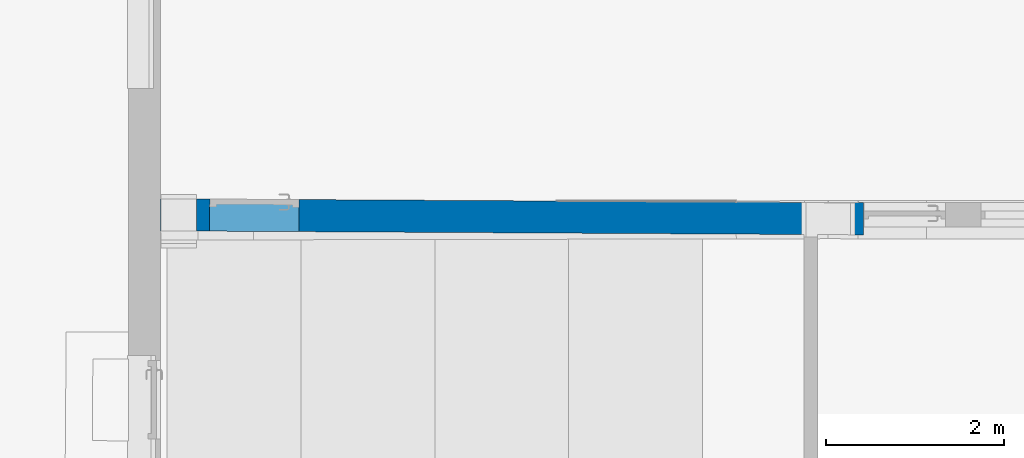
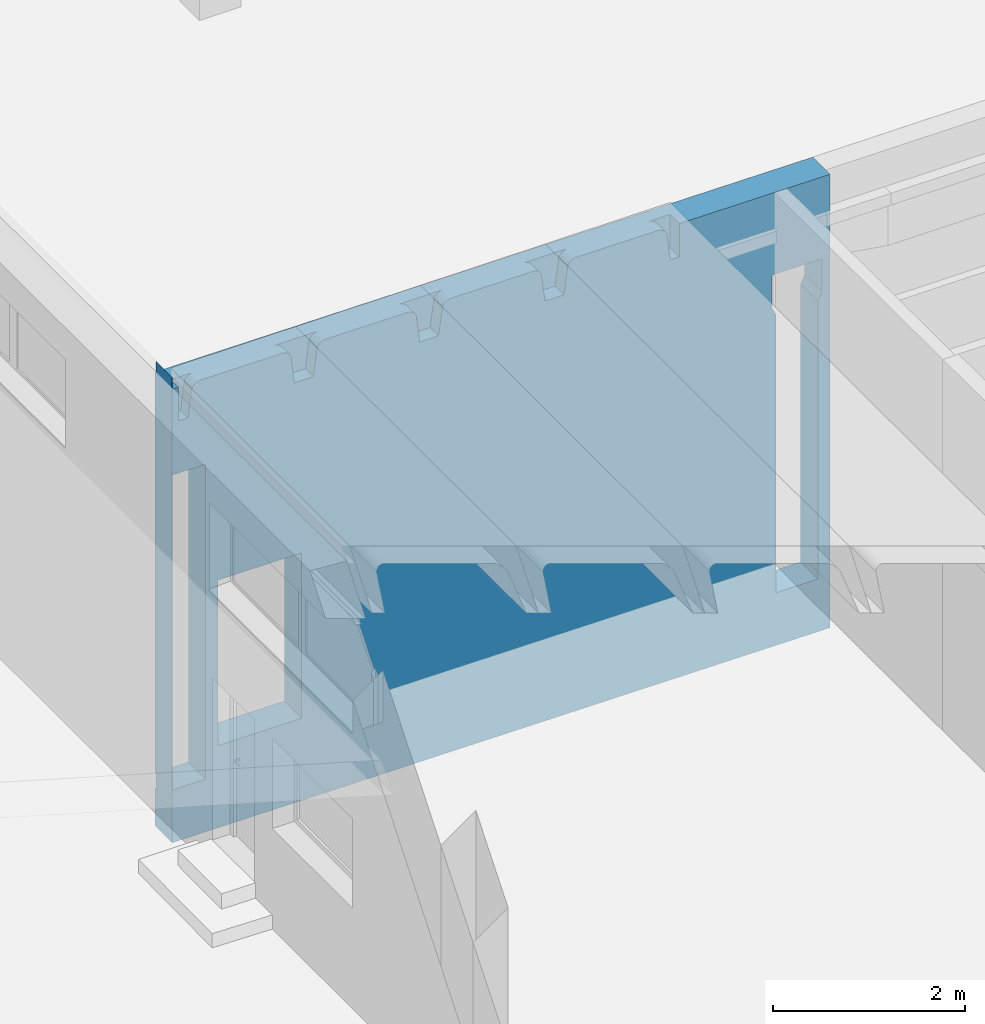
# One storey, part 144 of 301: 1 wall, 1 opening.
"""IFC2X3 building model written with IfcOpenShell, lengths in millimetres."""

from ifc_helpers import new_model, entity, si_unit, converted_unit, derived_unit, money_unit, direction, frame, origin_with_axes, place, context, subcontext, project, spatial, faceted_brep, material, type_object, element, save


model = new_model("IFC2X3")

# Units and contexts
model_context = context("Model", 3, precision=0.01, world=origin_with_axes(), true_north=direction((0.0, 1.0)))
body_context = subcontext(model_context, "Body", "Model", "MODEL_VIEW")
ifc_project = project(units=[si_unit("LENGTHUNIT", "METRE", prefix="MILLI"), si_unit("AREAUNIT", "SQUARE_METRE"), si_unit("VOLUMEUNIT", "CUBIC_METRE"), converted_unit("PLANEANGLEUNIT", "DEGREE", entity("IfcPlaneAngleMeasure", 0.0174532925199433), si_unit("PLANEANGLEUNIT", "RADIAN"), dimensions=[0, 0, 0, 0, 0, 0, 0]), money_unit("EUR"), converted_unit("TIMEUNIT", "Year", entity("IfcTimeMeasure", 31557600.0), si_unit("TIMEUNIT", "SECOND"), dimensions=[0, 0, 1, 0, 0, 0, 0]), si_unit("MASSUNIT", "GRAM", prefix="KILO"), si_unit("THERMODYNAMICTEMPERATUREUNIT", "DEGREE_CELSIUS"), si_unit("LUMINOUSINTENSITYUNIT", "LUMEN"), si_unit("ENERGYUNIT", "JOULE", prefix="MEGA"), derived_unit("THERMALCONDUCTANCEUNIT", [(si_unit("POWERUNIT", "WATT"), 1), (si_unit("LENGTHUNIT", "METRE"), -1), (si_unit("THERMODYNAMICTEMPERATUREUNIT", "KELVIN"), -1)]), derived_unit("SPECIFICHEATCAPACITYUNIT", [(si_unit("ENERGYUNIT", "JOULE"), 1), (si_unit("MASSUNIT", "GRAM", prefix="KILO"), -1), (si_unit("THERMODYNAMICTEMPERATUREUNIT", "KELVIN"), -1)]), derived_unit("MASSDENSITYUNIT", [(si_unit("MASSUNIT", "GRAM", prefix="KILO"), 1), (si_unit("VOLUMEUNIT", "CUBIC_METRE"), -1)])], contexts=[model_context])

# Site, building, storey
site_placement = place(None, frame((0.0, 0.0, 8650.0), z_axis=(0.0, 0.0, 1.0), x_axis=(1.0, 0.0, 0.0)))
site = spatial("IfcSite", under=ifc_project, at=site_placement, Name="43301:001:0844", CompositionType="ELEMENT")
building_placement = place(site_placement, origin_with_axes())
building = spatial("IfcBuilding", under=site, at=building_placement, Name="Kuressaare Ametikooli tuulikute mehaanikute õppekorpus", CompositionType="ELEMENT")
storey_placement = place(building_placement, origin_with_axes())
storey = spatial("IfcBuildingStorey", under=building, at=storey_placement, Name="1.korrus", CompositionType="ELEMENT", Elevation=0.0)

# Wall, opening
ifc_material = material(Name="GENEERILINE - KONSTRUKTRIOON")
wall_type = type_object("IfcWallType", Name="GENEERILINE - KONSTRUKTRIOON 360", PredefinedType="NOTDEFINED")
wall_placement = place(storey_placement, frame((96136.01441794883, 74565.19261974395, -1000.0), z_axis=(0.0, 0.0, 1.0), x_axis=(-0.9999841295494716, 0.005633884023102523, 0.0)))
wall = element("IfcWall", 1, at=wall_placement, inside=storey, type_object=wall_type, material=ifc_material, Name="SS-XX", context=body_context, shape_type="Brep", body=[
    faceted_brep([(4912.328481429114, 360.0000000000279, 5335.0), (4955.077516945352, 360.0000000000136, 5689.221146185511), (4967.895916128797, 360.0000000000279, 5711.307632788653), (4985.077576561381, 360.0000000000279, 5730.19993142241), (5005.85209198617, 360.0000000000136, 5745.050932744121), (5029.287956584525, 360.0000000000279, 5755.194734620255), (5053.446957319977, 360.0000000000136, 5760.0), (6040.901959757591, 360.0000000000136, 5760.0), (6065.220972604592, 360.0000000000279, 5755.986306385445), (6089.009572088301, 360.0000000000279, 5746.154578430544), (6109.955004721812, 360.0000000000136, 5731.193122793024), (6126.969839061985, 360.0000000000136, 5711.878698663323), (6139.170709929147, 360.0000000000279, 5689.214059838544), (6185.985651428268, 360.0000000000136, 5335.0), (6412.352287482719, 360.0000000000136, 5335.0), (6455.101322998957, 360.0000000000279, 5689.221146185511), (6467.919722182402, 360.0000000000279, 5711.307632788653), (6485.101382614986, 360.0000000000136, 5730.19993142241), (6505.875898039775, 360.0000000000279, 5745.050932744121), (6529.31176263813, 360.0000000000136, 5755.194734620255), (6553.470763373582, 360.0000000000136, 5760.0), (7540.925765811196, 360.0000000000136, 5760.0), (7565.244778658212, 360.0000000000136, 5755.986306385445), (7589.033378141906, 360.0000000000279, 5746.154578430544), (7609.978810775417, 360.0000000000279, 5731.193122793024), (7626.99364511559, 360.0000000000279, 5711.878698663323), (7639.194515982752, 360.0000000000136, 5689.214059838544), (7686.009457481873, 360.0000000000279, 5335.0), (7802.52321327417, 360.0000000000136, 5335.0), (7802.52321327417, 360.0000000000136, 5760.0), (7875.354758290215, 360.0000000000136, 5760.0), (7875.354758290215, 359.9999999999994, 5910.0), (7877.278824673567, 359.9999999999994, 5910.0), (7877.278824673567, 359.9999999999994, 0.0), (-1.014107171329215, 360.0000000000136, 0.0), (-1.014107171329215, 360.0000000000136, 5760.0), (1802.427989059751, 359.9999999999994, 5760.0), (1802.427989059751, 359.9999999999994, 5335.0), (1912.280869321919, 360.0000000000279, 5335.0), (1955.029904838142, 360.0000000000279, 5689.221146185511), (1967.848304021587, 360.0000000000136, 5711.307632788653), (1985.029964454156, 360.0000000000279, 5730.19993142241), (2005.804479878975, 360.0000000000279, 5745.050932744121), (2029.240344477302, 360.0000000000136, 5755.194734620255), (2053.399345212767, 360.0000000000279, 5760.0), (3040.854347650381, 360.0000000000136, 5760.0), (3065.173360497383, 360.0000000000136, 5755.986306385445), (3088.961959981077, 360.0000000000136, 5746.154578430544), (3109.907392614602, 360.0000000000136, 5731.193122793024), (3126.922226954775, 360.0000000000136, 5711.878698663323), (3139.123097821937, 360.0000000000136, 5689.214059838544), (3185.938039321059, 360.0000000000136, 5335.0), (3412.304675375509, 360.0000000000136, 5335.0), (3455.053710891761, 360.0000000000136, 5689.221146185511), (3467.872110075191, 360.0000000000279, 5711.307632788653), (3485.053770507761, 360.0000000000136, 5730.19993142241), (3505.828285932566, 360.0000000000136, 5745.050932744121), (3529.264150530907, 360.0000000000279, 5755.194734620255), (3553.423151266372, 360.0000000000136, 5760.0), (4540.878153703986, 360.0000000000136, 5760.0), (4565.197166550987, 360.0000000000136, 5755.986306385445), (4588.985766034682, 360.0000000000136, 5746.154578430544), (4609.931198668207, 360.0000000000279, 5731.193122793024), (4626.94603300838, 360.0000000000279, 5711.878698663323), (4639.146903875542, 360.0000000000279, 5689.214059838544), (4685.961845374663, 360.0000000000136, 5335.0), (7875.25059423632, 360.0000000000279, 669.9999999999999), (7875.25059423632, 360.0000000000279, 4670.0), (7475.244245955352, 360.0000000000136, 4670.0), (7475.244245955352, 360.0000000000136, 669.9999999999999), (94.28585790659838, 360.0000000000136, 4720.0), (94.28585790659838, 360.0000000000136, 4305.0), (144.2866514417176, 360.0000000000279, 4202.979557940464), (144.2866514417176, 360.0000000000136, 669.9999999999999), (644.294586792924, 360.0000000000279, 669.9999999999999), (644.294586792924, 360.0000000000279, 4202.979557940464), (694.2953803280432, 360.0000000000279, 4305.0), (694.2953803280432, 360.0000000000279, 4720.0), (7327.648461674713, 360.0000000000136, 1045.0), (7327.648461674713, 360.0000000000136, 3145.0), (6327.648461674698, 360.0000000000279, 3145.0), (6327.648461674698, 360.0000000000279, 1045.0), (4956.058437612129, 185.8918545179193, 5689.221146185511), (4913.310758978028, 185.6510152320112, 5335.0), (4968.876429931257, 185.9640707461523, 5711.307632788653), (4986.057545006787, 186.0608686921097, 5730.19993142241), (5006.831401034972, 186.1779080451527, 5745.050932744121), (5030.266521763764, 186.3099408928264, 5755.194734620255), (5054.424755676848, 186.4460477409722, 5760.0), (6554.400950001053, 194.8968737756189, 5760.0), (6041.848415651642, 192.0091664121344, 5760.0), (4541.872221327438, 183.5583403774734, 5760.0), (3554.448561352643, 177.9952217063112, 5760.0), (3041.896027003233, 175.1075143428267, 5760.0), (2054.472367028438, 169.5443956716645, 5760.0), (1803.508976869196, 168.1304745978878, 5760.0), (0.0, 0.0, 5760.0), (7877.278824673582, 0.0, 5760.0), (7877.278824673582, 18.48855963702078, 5760.0), (7803.413754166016, 201.9337787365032, 5760.0), (7541.824609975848, 200.4599924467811, 5760.0), (6066.166656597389, 192.1461747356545, 5755.986306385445), (6089.954501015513, 192.2801948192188, 5746.154578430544), (6110.899268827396, 192.3981970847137, 5731.193122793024), (6127.913563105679, 192.4940551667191, 5711.878698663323), (6140.114046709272, 192.5627923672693, 5689.214059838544), (6186.927502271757, 192.8265381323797, 5335.0), (6413.286953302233, 194.101841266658, 5335.0), (6456.034631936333, 194.3426805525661, 5689.221146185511), (6468.852624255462, 194.4148967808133, 5711.307632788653), (6486.033739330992, 194.5116947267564, 5730.19993142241), (6506.807595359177, 194.6287340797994, 5745.050932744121), (6530.242716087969, 194.7607669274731, 5755.194734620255), (7566.142850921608, 200.5970007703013, 5755.986306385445), (7589.930695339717, 200.7310208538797, 5746.154578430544), (7610.8754631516, 200.8490231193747, 5731.193122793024), (7627.889757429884, 200.9448812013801, 5711.878698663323), (7640.090241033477, 201.013618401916, 5689.214059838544), (7686.903696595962, 201.2773641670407, 5335.0), (7803.413754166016, 201.9337787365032, 5335.0), (7877.278824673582, 18.48855963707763, 5910.0), (7877.278824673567, 0.0, 4670.0), (7877.278824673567, 0.0, 669.9999999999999), (7877.278824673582, 0.0, 669.9486296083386), (7877.278824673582, 18.48855963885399, 669.9486296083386), (7877.278824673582, 18.48855963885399, 469.9486296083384), (7877.278824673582, 0.0, 469.9486296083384), (7877.278824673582, 0.0, 0.0), (0.0, 0.0, 0.0), (0.0, 0.0, 469.9486296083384), (0.0, 0.0, 669.9486296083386), (1803.508976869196, 168.1304745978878, 5335.0), (1913.358370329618, 168.7493631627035, 5335.0), (1956.106048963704, 168.9902024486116, 5689.221146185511), (1968.924041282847, 169.0624186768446, 5711.307632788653), (1986.105156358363, 169.159216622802, 5730.19993142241), (2006.879012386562, 169.2762559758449, 5745.050932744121), (2030.31413311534, 169.4082888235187, 5755.194734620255), (3066.214267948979, 175.2445226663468, 5755.986306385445), (3090.002112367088, 175.378542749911, 5746.154578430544), (3110.946880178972, 175.496545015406, 5731.193122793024), (3127.961174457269, 175.5924030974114, 5711.878698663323), (3140.161658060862, 175.6611402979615, 5689.214059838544), (3186.975113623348, 175.924886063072, 5335.0), (3413.334564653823, 177.2001891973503, 5335.0), (3456.082243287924, 177.4410284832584, 5689.221146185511), (3468.900235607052, 177.5132447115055, 5711.307632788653), (3486.081350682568, 177.6100426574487, 5730.19993142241), (3506.855206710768, 177.7270820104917, 5745.050932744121), (3530.290327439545, 177.8591148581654, 5755.194734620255), (4566.190462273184, 183.6953487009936, 5755.986306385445), (4589.978306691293, 183.829368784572, 5746.154578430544), (4610.923074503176, 183.947371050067, 5731.193122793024), (4627.937368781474, 184.0432291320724, 5711.878698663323), (4640.137852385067, 184.1119663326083, 5689.214059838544), (4686.951307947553, 184.375712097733, 5335.0), (7477.272476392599, 0.0, 4670.0), (7477.272476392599, 0.0, 669.9999999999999), (96.31408834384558, 0.0, 4305.0), (96.31408834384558, 0.0, 4720.0), (146.3148818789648, 0.0, 4202.979557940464), (146.3148818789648, 0.0, 669.9999999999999), (646.3228172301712, 0.0, 669.9999999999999), (646.3228172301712, 0.0, 4202.979557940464), (696.3236107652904, 0.0, 4305.0), (696.3236107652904, 0.0, 4720.0), (7327.648461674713, 0.0, 1045.0), (7327.648461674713, 0.0, 3145.0), (6327.648461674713, 0.0, 3145.0), (6327.648461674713, 0.0, 1045.0), (7877.13295547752, 44.37955782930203, 669.9486296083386), (7877.13295547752, 44.37955782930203, 469.9486296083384)], [[[0, 1, 2, 3, 4, 5, 6, 7, 8, 9, 10, 11, 12, 13, 14, 15, 16, 17, 18, 19, 20, 21, 22, 23, 24, 25, 26, 27, 28, 29, 30, 31, 32, 33, 34, 35, 36, 37, 38, 39, 40, 41, 42, 43, 44, 45, 46, 47, 48, 49, 50, 51, 52, 53, 54, 55, 56, 57, 58, 59, 60, 61, 62, 63, 64, 65], [66, 67, 68, 69], [70, 71, 72, 73, 74, 75, 76, 77], [78, 79, 80, 81]], [[82, 1, 0, 83]], [[84, 2, 1, 82]], [[85, 3, 2, 84]], [[86, 4, 3, 85]], [[87, 5, 4, 86]], [[88, 6, 5, 87]], [[21, 20, 89, 90, 7, 6, 88, 91, 59, 58, 92, 93, 45, 44, 94, 95, 36, 35, 96, 97, 98, 30, 29, 99, 100]], [[8, 7, 90, 101]], [[102, 9, 8, 101]], [[103, 10, 9, 102]], [[104, 11, 10, 103]], [[105, 12, 11, 104]], [[106, 13, 12, 105]], [[14, 13, 106, 107]], [[108, 15, 14, 107]], [[109, 16, 15, 108]], [[110, 17, 16, 109]], [[111, 18, 17, 110]], [[112, 19, 18, 111]], [[89, 20, 19, 112]], [[22, 21, 100, 113]], [[114, 23, 22, 113]], [[115, 24, 23, 114]], [[116, 25, 24, 115]], [[117, 26, 25, 116]], [[118, 27, 26, 117]], [[119, 28, 27, 118]], [[119, 99, 29, 28]], [[31, 30, 98, 120]], [[31, 120, 32]], [[120, 98, 97, 121, 122, 123, 124, 125, 126, 127, 33, 32]], [[34, 33, 127, 128]], [[96, 35, 34, 128, 129, 130]], [[37, 36, 95, 131]], [[132, 38, 37, 131]], [[133, 39, 38, 132]], [[134, 40, 39, 133]], [[135, 41, 40, 134]], [[136, 42, 41, 135]], [[137, 43, 42, 136]], [[94, 44, 43, 137]], [[46, 45, 93, 138]], [[139, 47, 46, 138]], [[140, 48, 47, 139]], [[141, 49, 48, 140]], [[142, 50, 49, 141]], [[143, 51, 50, 142]], [[143, 144, 52, 51]], [[145, 53, 52, 144]], [[146, 54, 53, 145]], [[147, 55, 54, 146]], [[148, 56, 55, 147]], [[149, 57, 56, 148]], [[92, 58, 57, 149]], [[60, 59, 91, 150]], [[151, 61, 60, 150]], [[152, 62, 61, 151]], [[153, 63, 62, 152]], [[154, 64, 63, 153]], [[155, 65, 64, 154]], [[155, 83, 0, 65]], [[66, 122, 121, 67]], [[121, 156, 68, 67]], [[156, 157, 69, 68]], [[157, 122, 66, 69]], [[158, 71, 70, 159]], [[160, 72, 71, 158]], [[72, 160, 161, 73]], [[161, 162, 74, 73]], [[162, 163, 75, 74]], [[75, 163, 164, 76]], [[76, 164, 165, 77]], [[165, 159, 70, 77]], [[166, 167, 79, 78]], [[167, 168, 80, 79]], [[168, 169, 81, 80]], [[169, 166, 78, 81]], [[154, 153, 152, 151, 150, 91, 88, 87, 86, 85, 84, 82, 83, 155]], [[111, 110, 109, 108, 107, 106, 105, 104, 103, 102, 101, 90, 89, 112]], [[142, 141, 140, 139, 138, 93, 92, 149, 148, 147, 146, 145, 144, 143]], [[135, 134, 133, 132, 131, 95, 94, 137, 136]], [[97, 96, 130, 123, 122, 157, 156, 121], [159, 165, 164, 163, 162, 161, 160, 158], [166, 169, 168, 167]], [[117, 116, 115, 114, 113, 100, 99, 119, 118]], [[170, 124, 123, 130]], [[170, 171, 125, 124]], [[125, 171, 129, 126]], [[128, 127, 126, 129]], [[171, 170, 130, 129]]]),
])
opening_placement = place(wall_placement, frame((6827.648461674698, 0.0, 1045.0), z_axis=(0.0, 0.0, 1.0), x_axis=(1.0, 0.0, 0.0)))
element("IfcOpeningElement", 2, at=opening_placement, cuts=wall, Name="SU-XX", context=body_context, shape_type="Brep", body=[
    faceted_brep([(500.0, 405.3789709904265, 2100.0), (500.0, 405.3789709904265, 0.0), (-499.9999999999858, 405.3789709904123, 0.0), (-499.9999999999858, 405.3789709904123, 2100.0), (500.0000000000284, -45.37897099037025, 2100.0), (500.0000000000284, -45.37897099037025, 0.0), (-499.9999999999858, -45.37897099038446, 0.0), (-499.9999999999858, -45.37897099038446, 2100.0)], [[[0, 1, 2, 3]], [[4, 5, 1, 0]], [[5, 6, 2, 1]], [[6, 7, 3, 2]], [[7, 4, 0, 3]], [[6, 5, 4, 7]]]),
])

save(model, "model.ifc")
